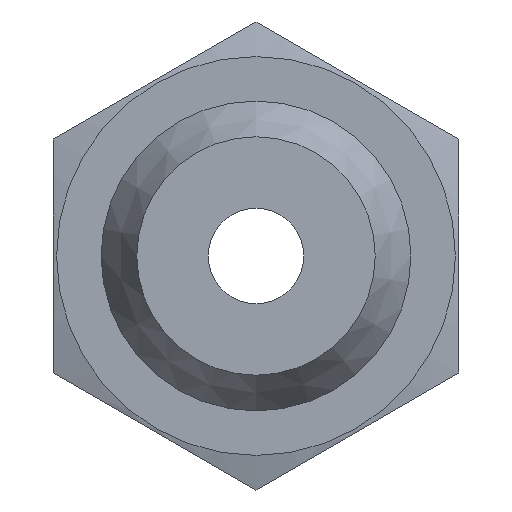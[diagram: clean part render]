
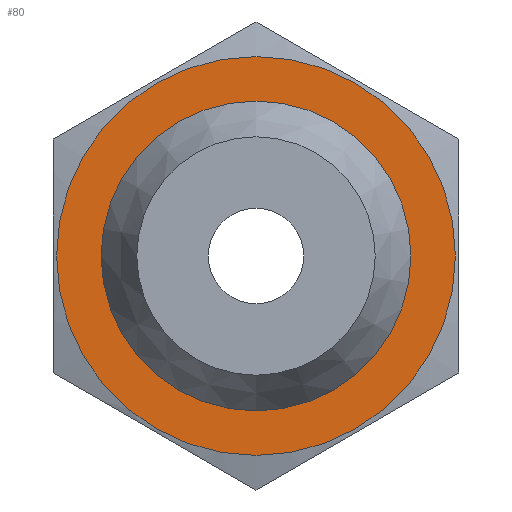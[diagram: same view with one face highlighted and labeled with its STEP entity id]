
A CAD part, left-side view. The second image highlights one B-rep face of the part: STEP entity #80.
In plain terms, the highlighted planar face has unit normal (-1, 0, 0).
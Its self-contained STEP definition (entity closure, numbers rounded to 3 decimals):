
#80 = ADVANCED_FACE( '', ( #173, #174 ), #175, .F. );
#173 = FACE_BOUND( '', #270, .T. );
#174 = FACE_OUTER_BOUND( '', #271, .T. );
#175 = PLANE( '', #272 );
#270 = EDGE_LOOP( '', ( #410 ) );
#271 = EDGE_LOOP( '', ( #411 ) );
#272 = AXIS2_PLACEMENT_3D( '', #412, #413, #414 );
#410 = ORIENTED_EDGE( '', *, *, #514, .F. );
#411 = ORIENTED_EDGE( '', *, *, #515, .T. );
#412 = CARTESIAN_POINT( '', ( -20., 0., 9.815 ) );
#413 = DIRECTION( '', ( 1., 0., 0. ) );
#414 = DIRECTION( '', ( 0., 0., -1. ) );
#514 = EDGE_CURVE( '', #600, #600, #601, .T. );
#515 = EDGE_CURVE( '', #602, #602, #603, .T. );
#600 = VERTEX_POINT( '', #743 );
#601 = CIRCLE( '', #744, 6.5 );
#602 = VERTEX_POINT( '', #745 );
#603 = CIRCLE( '', #746, 8.365 );
#743 = CARTESIAN_POINT( '', ( -20., 0., 6.5 ) );
#744 = AXIS2_PLACEMENT_3D( '', #818, #819, #820 );
#745 = CARTESIAN_POINT( '', ( -20., 0., 8.365 ) );
#746 = AXIS2_PLACEMENT_3D( '', #821, #822, #823 );
#818 = CARTESIAN_POINT( '', ( -20., 0., 0. ) );
#819 = DIRECTION( '', ( -1., 0., 0. ) );
#820 = DIRECTION( '', ( 0., 0., 1. ) );
#821 = CARTESIAN_POINT( '', ( -20., 0., 0. ) );
#822 = DIRECTION( '', ( -1., 0., 0. ) );
#823 = DIRECTION( '', ( 0., 0., 1. ) );
